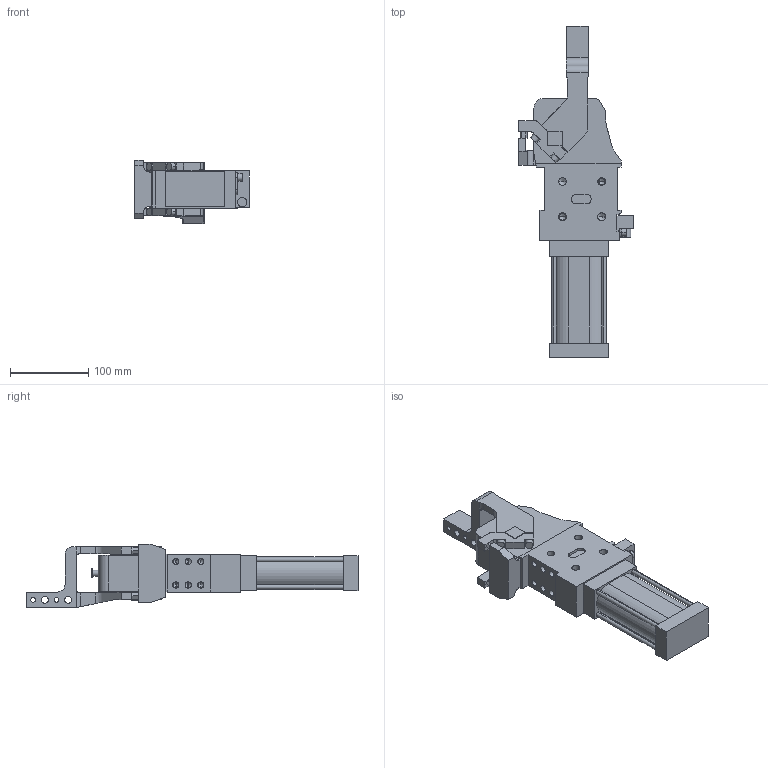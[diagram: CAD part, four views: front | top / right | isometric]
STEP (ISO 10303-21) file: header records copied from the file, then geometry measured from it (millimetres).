
FILE_DESCRIPTION (( 'STEP AP214' ), '1' );
FILE_NAME ('cpl50th1dsi1g_75.STEP', '2023-01-26T09:48:02', ( '' ), ( '' ), 'SwSTEP 2.0', 'SolidWorks 2022', '' );
FILE_SCHEMA (( 'AUTOMOTIVE_DESIGN' ));
Length unit declared in the file: millimetre
Products named in the file (4): meccanica_cpl_50_tassello_esterno; leva_h1ds_cpl50t; blocchetto_VEP_0; cpl50th1dsi1g_75
Assembly tree (3 placements, depth 2):
  cpl50th1dsi1g_75
    meccanica_cpl_50_tassello_esterno
    blocchetto_VEP_0
    leva_h1ds_cpl50t
Bounding box: 146.5 x 424.5 x 81 mm (x, y, z)
Volume: 1428251.6 mm3; surface area: 173023.9 mm2
Topology: 3 solids, 3 shells, 436 faces, 1134 edges, 709 vertices
Faces by surface type: plane 224, cylinder 162, cone 50
Entity records: 14600 total; most frequent: CARTESIAN_POINT 2327, DIRECTION 2300, ORIENTED_EDGE 2176, EDGE_CURVE 1088, AXIS2_PLACEMENT_3D 780, LINE 740, VECTOR 740, VERTEX_POINT 709
